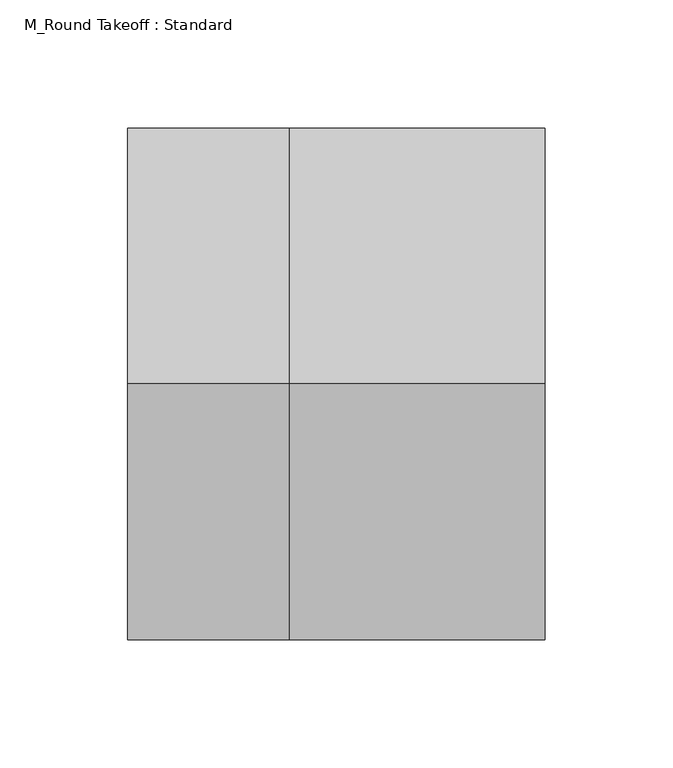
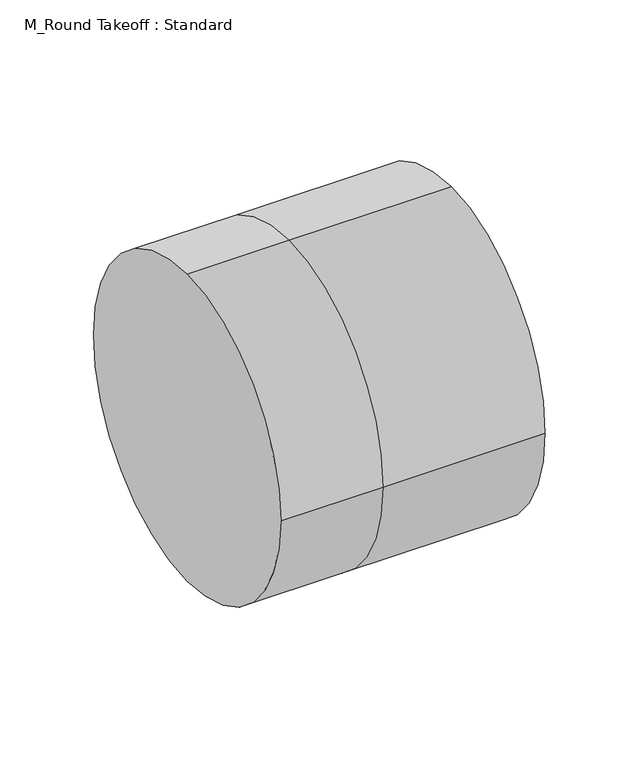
"""IFC4 building model written with IfcOpenShell, lengths in millimetres: duct fitting geometry, M_Round Takeoff : Standard."""

from ifc_helpers import new_model, si_unit, frame, origin, place, context, project, spatial, circle_curve, source, transform, mapped, element, save
from ifc_brep_helpers import plane_surface, cylinder_surface, advanced_brep


def m_round_takeoff_standard_5f5b8297(model_context):
    return source(origin(), model_context, "Body", "AdvancedBrep", [
        advanced_brep(
        [(-62.9361974, 0.0, 100.0), (-62.9361974, 100.0, 0.0), (-62.9361974, 0.0, -100.0), (-62.9361974, -100.0, 0.0), (0.0, -100.0, 0.0), (0.0, 0.0, 100.0), (0.0, 0.0, -100.0), (0.0, 100.0, 0.0), (100.0, 0.0, 100.0), (100.0, -100.0, 0.0), (100.0, 0.0, -100.0), (100.0, 100.0, 0.0)],
        [
            (0, 1, circle_curve(frame((-62.9361974, 0.0, 0.0), z_axis=(-1.0, 0.0, 0.0), x_axis=(0.0, -1.0, 0.0)), 100.0)),
            (1, 2, circle_curve(frame((-62.9361974, 0.0, 0.0), z_axis=(-1.0, 0.0, 0.0), x_axis=(0.0, -1.0, 0.0)), 100.0)),
            (2, 3, circle_curve(frame((-62.9361974, 0.0, 0.0), z_axis=(-1.0, 0.0, 0.0), x_axis=(0.0, -1.0, 0.0)), 100.0)),
            (3, 0, circle_curve(frame((-62.9361974, 0.0, 0.0), z_axis=(-1.0, 0.0, 0.0), x_axis=(0.0, -1.0, 0.0)), 100.0)),
            (3, 4),
            (4, 5, circle_curve(frame((0.0, 0.0, 0.0), z_axis=(-1.0, 0.0, 0.0), x_axis=(0.0, -1.0, 0.0)), 100.0)),
            (5, 0),
            (2, 6),
            (6, 4, circle_curve(frame((0.0, 0.0, 0.0), z_axis=(-1.0, 0.0, 0.0), x_axis=(0.0, -1.0, 0.0)), 100.0)),
            (1, 7),
            (7, 6, circle_curve(frame((0.0, 0.0, 0.0), z_axis=(-1.0, 0.0, 0.0), x_axis=(0.0, -1.0, 0.0)), 100.0)),
            (5, 7, circle_curve(frame((0.0, 0.0, 0.0), z_axis=(-1.0, 0.0, 0.0), x_axis=(0.0, -1.0, 0.0)), 100.0)),
            (8, 9, circle_curve(frame((100.0, 0.0, 0.0), z_axis=(1.0, 0.0, 0.0), x_axis=(0.0, -1.0, 0.0)), 100.0)),
            (9, 10, circle_curve(frame((100.0, 0.0, 0.0), z_axis=(1.0, 0.0, 0.0), x_axis=(0.0, -1.0, 0.0)), 100.0)),
            (10, 11, circle_curve(frame((100.0, 0.0, 0.0), z_axis=(1.0, 0.0, 0.0), x_axis=(0.0, -1.0, 0.0)), 100.0)),
            (11, 8, circle_curve(frame((100.0, 0.0, 0.0), z_axis=(1.0, 0.0, 0.0), x_axis=(0.0, -1.0, 0.0)), 100.0)),
            (8, 5),
            (4, 9),
            (6, 10),
            (7, 11),
        ],
        [
            plane_surface(frame((-62.9361974, 0.0, 0.0), z_axis=(-1.0, 0.0, 0.0), x_axis=(0.0, 0.0, 1.0))),
            cylinder_surface(frame((-62.9361974, 0.0, 0.0), z_axis=(-1.0, 0.0, 0.0), x_axis=(0.0, -1.0, 0.0)), 100.0),
            plane_surface(frame((100.0, 0.0, 0.0), z_axis=(1.0, 0.0, 0.0), x_axis=(0.0, 0.0, 1.0))),
            cylinder_surface(frame((0.0, 0.0, 0.0), z_axis=(-1.0, 0.0, 0.0), x_axis=(0.0, -1.0, 0.0)), 100.0),
        ],
        [
            (0, [[1, 2, 3, 4]]),
            (1, [[5, 6, 7, -4]]),
            (1, [[8, 9, -5, -3]]),
            (1, [[10, 11, -8, -2]]),
            (1, [[-7, 12, -10, -1]]),
            (2, [[13, 14, 15, 16]]),
            (3, [[17, -6, 18, -13]]),
            (3, [[-18, -9, 19, -14]]),
            (3, [[-19, -11, 20, -15]]),
            (3, [[-20, -12, -17, -16]]),
        ],
    ),
        advanced_brep(
        [(100.0, 0.0, 100.0), (100.0, -100.0, 0.0), (100.0, 0.0, -100.0), (100.0, 100.0, 0.0), (0.0, 0.0, 100.0), (0.0, -100.0, 0.0), (0.0, 0.0, -100.0), (0.0, 100.0, 0.0), (-62.9361974, 0.0, 100.0), (-62.9361974, 100.0, 0.0), (-62.9361974, 0.0, -100.0), (-62.9361974, -100.0, 0.0)],
        [
            (0, 1, circle_curve(frame((100.0, 0.0, 0.0), z_axis=(1.0, 0.0, 0.0), x_axis=(0.0, -1.0, 0.0)), 100.0)),
            (1, 2, circle_curve(frame((100.0, 0.0, 0.0), z_axis=(1.0, 0.0, 0.0), x_axis=(0.0, -1.0, 0.0)), 100.0)),
            (2, 3, circle_curve(frame((100.0, 0.0, 0.0), z_axis=(1.0, 0.0, 0.0), x_axis=(0.0, -1.0, 0.0)), 100.0)),
            (3, 0, circle_curve(frame((100.0, 0.0, 0.0), z_axis=(1.0, 0.0, 0.0), x_axis=(0.0, -1.0, 0.0)), 100.0)),
            (0, 4),
            (4, 5, circle_curve(frame((0.0, 0.0, 0.0), z_axis=(1.0, 0.0, 0.0), x_axis=(0.0, -1.0, 0.0)), 100.0)),
            (5, 1),
            (5, 6, circle_curve(frame((0.0, 0.0, 0.0), z_axis=(1.0, 0.0, 0.0), x_axis=(0.0, -1.0, 0.0)), 100.0)),
            (6, 2),
            (6, 7, circle_curve(frame((0.0, 0.0, 0.0), z_axis=(1.0, 0.0, 0.0), x_axis=(0.0, -1.0, 0.0)), 100.0)),
            (7, 3),
            (7, 4, circle_curve(frame((0.0, 0.0, 0.0), z_axis=(1.0, 0.0, 0.0), x_axis=(0.0, -1.0, 0.0)), 100.0)),
            (8, 9, circle_curve(frame((-62.9361974, 0.0, 0.0), z_axis=(-1.0, 0.0, 0.0), x_axis=(0.0, -1.0, 0.0)), 100.0)),
            (9, 10, circle_curve(frame((-62.9361974, 0.0, 0.0), z_axis=(-1.0, 0.0, 0.0), x_axis=(0.0, -1.0, 0.0)), 100.0)),
            (10, 11, circle_curve(frame((-62.9361974, 0.0, 0.0), z_axis=(-1.0, 0.0, 0.0), x_axis=(0.0, -1.0, 0.0)), 100.0)),
            (11, 8, circle_curve(frame((-62.9361974, 0.0, 0.0), z_axis=(-1.0, 0.0, 0.0), x_axis=(0.0, -1.0, 0.0)), 100.0)),
            (11, 5),
            (4, 8),
            (10, 6),
            (9, 7),
        ],
        [
            plane_surface(frame((100.0, 0.0, 0.0), z_axis=(1.0, 0.0, 0.0), x_axis=(0.0, 0.0, 1.0))),
            cylinder_surface(frame((0.0, 0.0, 0.0), z_axis=(-1.0, 0.0, 0.0), x_axis=(0.0, -1.0, 0.0)), 100.0),
            plane_surface(frame((-62.9361974, 0.0, 0.0), z_axis=(-1.0, 0.0, 0.0), x_axis=(0.0, 0.0, 1.0))),
            cylinder_surface(frame((-62.9361974, 0.0, 0.0), z_axis=(-1.0, 0.0, 0.0), x_axis=(0.0, -1.0, 0.0)), 100.0),
        ],
        [
            (0, [[1, 2, 3, 4]]),
            (1, [[5, 6, 7, -1]]),
            (1, [[-7, 8, 9, -2]]),
            (1, [[-9, 10, 11, -3]]),
            (1, [[-11, 12, -5, -4]]),
            (2, [[13, 14, 15, 16]]),
            (3, [[17, -6, 18, -16]]),
            (3, [[19, -8, -17, -15]]),
            (3, [[20, -10, -19, -14]]),
            (3, [[-18, -12, -20, -13]]),
        ],
    ),
        advanced_brep(
        [(-62.9361974, 0.0, 100.0), (-62.9361974, 100.0, 0.0), (-62.9361974, 0.0, -100.0), (-62.9361974, -100.0, 0.0), (0.0, -100.0, 0.0), (0.0, 0.0, 100.0), (0.0, 0.0, -100.0), (0.0, 100.0, 0.0), (100.0, 0.0, 100.0), (100.0, -100.0, 0.0), (100.0, 0.0, -100.0), (100.0, 100.0, 0.0)],
        [
            (0, 1, circle_curve(frame((-62.9361974, 0.0, 0.0), z_axis=(-1.0, 0.0, 0.0), x_axis=(0.0, -1.0, 0.0)), 100.0)),
            (1, 2, circle_curve(frame((-62.9361974, 0.0, 0.0), z_axis=(-1.0, 0.0, 0.0), x_axis=(0.0, -1.0, 0.0)), 100.0)),
            (2, 3, circle_curve(frame((-62.9361974, 0.0, 0.0), z_axis=(-1.0, 0.0, 0.0), x_axis=(0.0, -1.0, 0.0)), 100.0)),
            (3, 0, circle_curve(frame((-62.9361974, 0.0, 0.0), z_axis=(-1.0, 0.0, 0.0), x_axis=(0.0, -1.0, 0.0)), 100.0)),
            (3, 4),
            (4, 5, circle_curve(frame((0.0, 0.0, 0.0), z_axis=(-1.0, 0.0, 0.0), x_axis=(0.0, -1.0, 0.0)), 100.0)),
            (5, 0),
            (2, 6),
            (6, 4, circle_curve(frame((0.0, 0.0, 0.0), z_axis=(-1.0, 0.0, 0.0), x_axis=(0.0, -1.0, 0.0)), 100.0)),
            (1, 7),
            (7, 6, circle_curve(frame((0.0, 0.0, 0.0), z_axis=(-1.0, 0.0, 0.0), x_axis=(0.0, -1.0, 0.0)), 100.0)),
            (5, 7, circle_curve(frame((0.0, 0.0, 0.0), z_axis=(-1.0, 0.0, 0.0), x_axis=(0.0, -1.0, 0.0)), 100.0)),
            (8, 9, circle_curve(frame((100.0, 0.0, 0.0), z_axis=(1.0, 0.0, 0.0), x_axis=(0.0, -1.0, 0.0)), 100.0)),
            (9, 10, circle_curve(frame((100.0, 0.0, 0.0), z_axis=(1.0, 0.0, 0.0), x_axis=(0.0, -1.0, 0.0)), 100.0)),
            (10, 11, circle_curve(frame((100.0, 0.0, 0.0), z_axis=(1.0, 0.0, 0.0), x_axis=(0.0, -1.0, 0.0)), 100.0)),
            (11, 8, circle_curve(frame((100.0, 0.0, 0.0), z_axis=(1.0, 0.0, 0.0), x_axis=(0.0, -1.0, 0.0)), 100.0)),
            (8, 5),
            (4, 9),
            (6, 10),
            (7, 11),
        ],
        [
            plane_surface(frame((-62.9361974, 0.0, 0.0), z_axis=(-1.0, 0.0, 0.0), x_axis=(0.0, 0.0, 1.0))),
            cylinder_surface(frame((-62.9361974, 0.0, 0.0), z_axis=(-1.0, 0.0, 0.0), x_axis=(0.0, -1.0, 0.0)), 100.0),
            plane_surface(frame((100.0, 0.0, 0.0), z_axis=(1.0, 0.0, 0.0), x_axis=(0.0, 0.0, 1.0))),
            cylinder_surface(frame((0.0, 0.0, 0.0), z_axis=(-1.0, 0.0, 0.0), x_axis=(0.0, -1.0, 0.0)), 100.0),
        ],
        [
            (0, [[1, 2, 3, 4]]),
            (1, [[5, 6, 7, -4]]),
            (1, [[8, 9, -5, -3]]),
            (1, [[10, 11, -8, -2]]),
            (1, [[-7, 12, -10, -1]]),
            (2, [[13, 14, 15, 16]]),
            (3, [[17, -6, 18, -13]]),
            (3, [[-18, -9, 19, -14]]),
            (3, [[-19, -11, 20, -15]]),
            (3, [[-20, -12, -17, -16]]),
        ],
    ),
    ])


if __name__ == "__main__":
    model = new_model("IFC4")
    model_context = context("Model", 3, world=origin())
    ifc_project = project(units=[si_unit("LENGTHUNIT", "METRE", prefix="MILLI")], contexts=[model_context])
    site = spatial("IfcSite", under=ifc_project)
    building = spatial("IfcBuilding", under=site)
    placement = place(None, origin())
    m_round_takeoff_standard_shape = m_round_takeoff_standard_5f5b8297(model_context)
    element("IfcDuctFitting", 1, ObjectType="M_Round Takeoff : Standard", at=placement, inside=building, context=model_context, shape_type="MappedRepresentation", body=[
        mapped(m_round_takeoff_standard_shape, transform((0.0, 0.0, 0.0), x_axis=(1.0, 0.0, 0.0), y_axis=(0.0, 1.0, 0.0), z_axis=(0.0, 0.0, 1.0))),
    ])
    save(model, "model.ifc")
